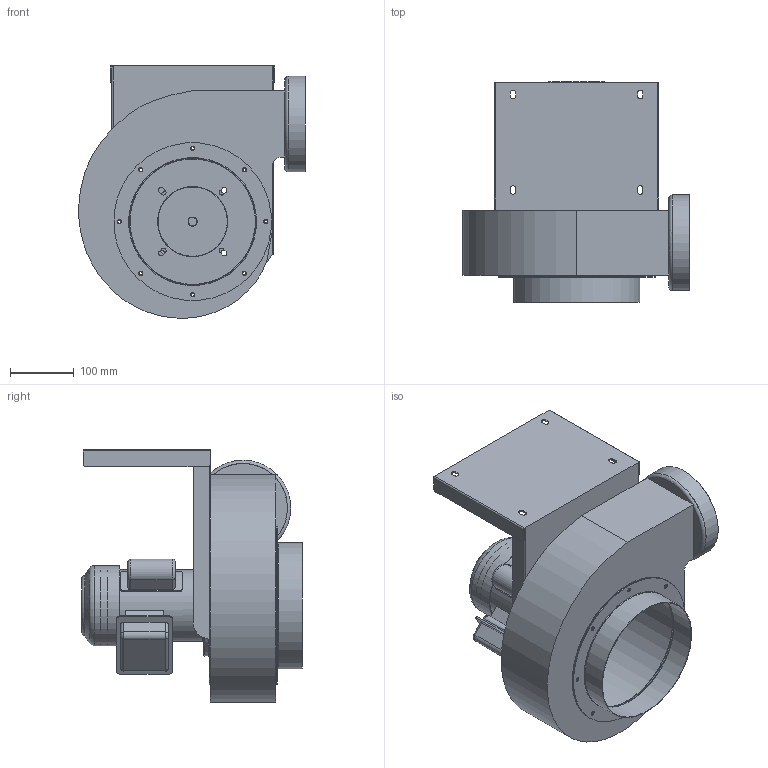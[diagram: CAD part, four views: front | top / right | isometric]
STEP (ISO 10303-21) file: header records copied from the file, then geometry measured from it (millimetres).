
FILE_DESCRIPTION(/* description */ ('Unknown'),/* implementation_level */ '2;1');
FILE_NAME(/* name */ 'CY210AL4PQ-EG 型錄',/* time_stamp */ '2026-05-06T14:08:51+08:00',/* author */ ('Unknown'),/* organization */ ('Unknown'),/* preprocessor_version */ 'ST-DEVELOPER v20',/* originating_system */ 'Solid Edge',/* authorisation */ 'Unknown');
FILE_SCHEMA (('AUTOMOTIVE_DESIGN {1 0 10303 214 3 1 1}'));
Length unit declared in the file: millimetre
Products named in the file (5): CY210AL4PQ-EG «¬ied_contract_assignment; CY210-01+5; CY210-04+8; CY210-07L; JM1904PV-EG
Assembly tree (4 placements, depth 2):
  CY210AL4PQ-EG «¬ied_contract_assignment
    CY210-01+5
    CY210-04+8
    CY210-07L
    JM1904PV-EG
Bounding box: 355.97 x 346.4 x 396.95 mm (x, y, z)
Volume: 7476468.2 mm3; surface area: 1039950.3 mm2
Topology: 5 solids, 7 shells, 245 faces, 608 edges, 390 vertices
Faces by surface type: cylinder 115, plane 101, torus 19, cone 7, bspline 3
Full cylindrical faces by diameter (mm): 5 x8, 6.5 x16, 7 x8, 10 x4, 14 x1, 14.5 x1, 93.2 x1, 110 x1, 110.2 x1, 113.2 x1, 114 x1, 125 x2, 127 x1, 148 x1, 150 x1, 160 x1, 197 x1, 199 x1, 215 x1, 248 x2
Entity records: 7714 total; most frequent: CARTESIAN_POINT 1791, DIRECTION 1243, ORIENTED_EDGE 1040, EDGE_CURVE 520, AXIS2_PLACEMENT_3D 500, EDGE_LOOP 426, FACE_BOUND 426, VERTEX_POINT 374
